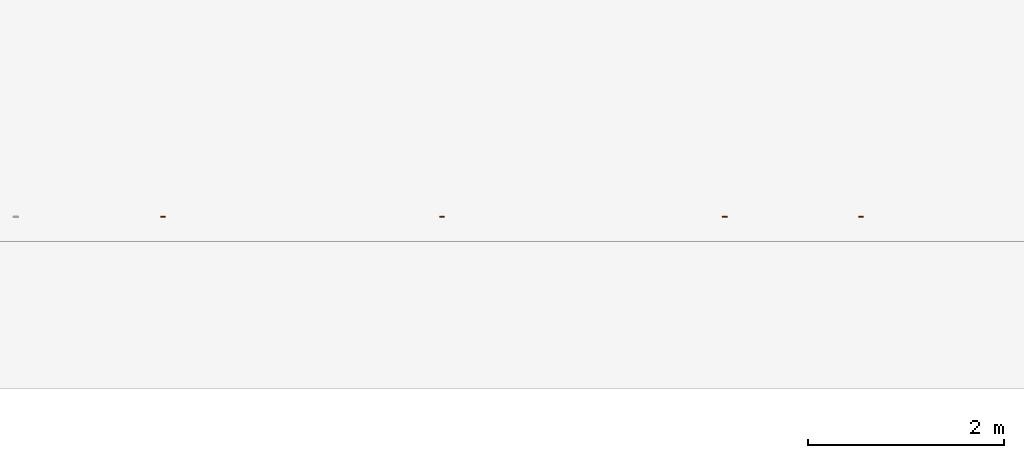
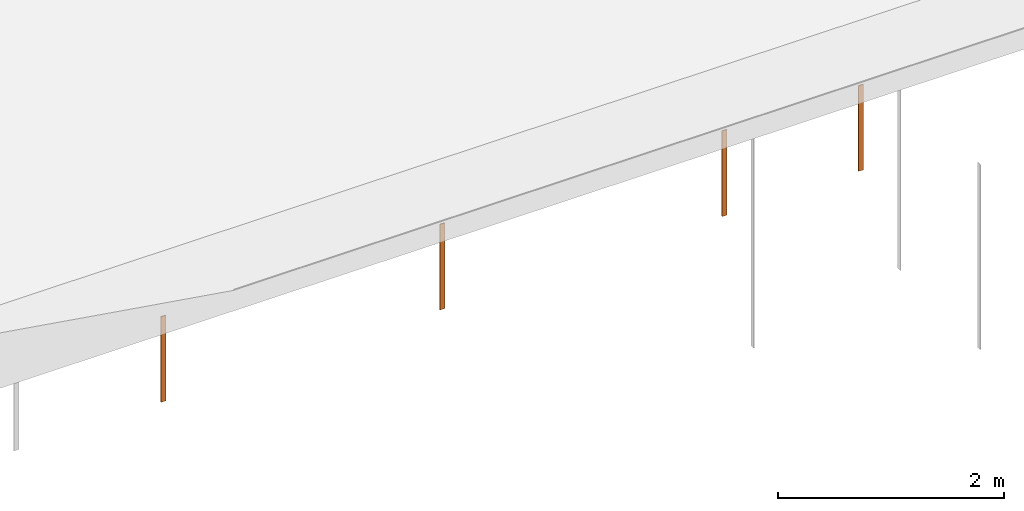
# One storey, part 7 of 7: 4 proxies.
"""IFC2X3 building model written with IfcOpenShell, lengths in millimetres."""

from ifc_helpers import new_model, entity, si_unit, converted_unit, derived_unit, direction, frame, frame_2d, origin, place, context, subcontext, project, spatial, rectangle, extrude, source, transform, mapped, material, type_object, type_shapes, element, save


model = new_model("IFC2X3")

# Units and contexts
model_context = context("Model", 3, precision=0.01, world=origin(), true_north=direction((0.7716245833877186, 0.6360782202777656)))
body_context = subcontext(model_context, "Body", "Model", "MODEL_VIEW")
ifc_project = project(units=[si_unit("LENGTHUNIT", "METRE", prefix="MILLI"), si_unit("AREAUNIT", "SQUARE_METRE"), converted_unit("PLANEANGLEUNIT", "DEGREE", entity("IfcPlaneAngleMeasure", 0.017453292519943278), si_unit("PLANEANGLEUNIT", "RADIAN"), dimensions=[0, 0, 0, 0, 0, 0, 0]), derived_unit("THERMALTRANSMITTANCEUNIT", [(si_unit("MASSUNIT", "GRAM", prefix="KILO"), 1), (si_unit("THERMODYNAMICTEMPERATUREUNIT", "KELVIN"), -1), (si_unit("TIMEUNIT", "SECOND"), -3)])], contexts=[model_context])

# Site, building, storey
site_placement = place(None, origin())
site = spatial("IfcSite", under=ifc_project, at=site_placement, Name="Default", CompositionType="ELEMENT")
building_placement = place(site_placement, origin())
building = spatial("IfcBuilding", under=site, at=building_placement, CompositionType="ELEMENT")
storey_placement = place(building_placement, frame((0.0, 0.0, 37100.0)))
storey = spatial("IfcBuildingStorey", under=building, at=storey_placement, Name="PLAN 03 (EKS. TAK)", CompositionType="ELEMENT", Elevation=37100.0)

# Proxies
ifc_material = material(Name="Aluminum")
building_element_proxy_type = type_object("IfcBuildingElementProxyType", Name="Fasade profil, VER:Fasade profil 100x50", PredefinedType="NOTDEFINED", material=ifc_material)
shared_shape = source(origin(), body_context, "Body", "SweptSolid", [
    extrude(rectangle(XDim=50.000000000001, YDim=10.000000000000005, at=frame_2d((-2.1316282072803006e-14, 0.0), x_axis=(1.0, 0.0))), frame((25.0, -5.0, 0.0), z_axis=(0.0, 0.0, 1.0), x_axis=(-1.0, 0.0, 0.0)), (0.0, 0.0, 1.0), 922.6087503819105),
])
type_shapes(building_element_proxy_type, [shared_shape])
for number, where, name in (
    (1, (276077.84249293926, 53315.25555007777, -510.0), "Fasade profil, VER:Fasade profil 100x50"),
    (2, (274687.84249293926, 53315.255550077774, -510.0), "Fasade profil, VER:Fasade profil 100x50"),
    (3, (271807.8424929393, 53315.25555007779, -510.0), "Fasade profil, VER:Fasade profil 100x50"),
    (4, (268964.86250274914, 53315.25555007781, -510.0), "Fasade profil, VER:Fasade profil 100x50"),
):
    element("IfcBuildingElementProxy", number, at=place(storey_placement, frame(where)), inside=storey, type_object=building_element_proxy_type, material=ifc_material, Name=name, ObjectType="Fasade profil, VER:Fasade profil 100x50", context=body_context, shape_type="MappedRepresentation", body=[
        mapped(shared_shape, transform((0.0, 0.0, 0.0), scale=1.0)),
    ])

save(model, "model.ifc")
